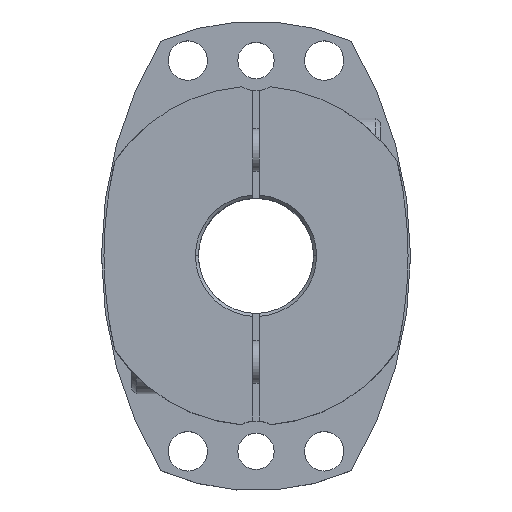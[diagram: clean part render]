
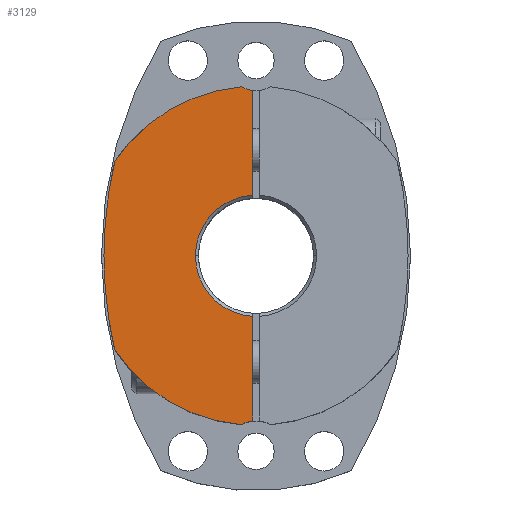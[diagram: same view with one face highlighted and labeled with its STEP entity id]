
A CAD part, top view. The second image highlights one B-rep face of the part: STEP entity #3129.
In plain terms, the highlighted planar face has unit normal (0, 0, 1).
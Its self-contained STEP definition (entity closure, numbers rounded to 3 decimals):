
#414=CARTESIAN_POINT('',(-20.,0.,42.5));
#415=VERTEX_POINT('',#414);
#422=CARTESIAN_POINT('',(-1.,-19.975,42.5));
#423=VERTEX_POINT('',#422);
#424=CARTESIAN_POINT('',(0.,0.,42.5));
#425=DIRECTION('',(0.0,0.0,1.0));
#426=DIRECTION('',(1.0,0.0,0.0));
#427=AXIS2_PLACEMENT_3D('',#424,#425,#426);
#428=CIRCLE('',#427,20.0);
#429=EDGE_CURVE('',#415,#423,#428,.T.);
#936=CARTESIAN_POINT('',(-50.2,0.,42.5));
#937=VERTEX_POINT('',#936);
#946=CARTESIAN_POINT('',(-46.66,30.965,42.5));
#947=VERTEX_POINT('',#946);
#948=CARTESIAN_POINT('',(87.,0.,42.5));
#949=DIRECTION('',(0.0,0.0,-1.0));
#950=DIRECTION('',(1.0,0.0,0.0));
#951=AXIS2_PLACEMENT_3D('',#948,#949,#950);
#952=CIRCLE('',#951,137.2);
#953=EDGE_CURVE('',#937,#947,#952,.T.);
#2266=CARTESIAN_POINT('',(-46.66,-30.965,42.5));
#2267=VERTEX_POINT('',#2266);
#2274=CARTESIAN_POINT('',(87.,0.,42.5));
#2275=DIRECTION('',(0.0,0.0,-1.0));
#2276=DIRECTION('',(1.0,0.0,0.0));
#2277=AXIS2_PLACEMENT_3D('',#2274,#2275,#2276);
#2278=CIRCLE('',#2277,137.2);
#2279=EDGE_CURVE('',#2267,#937,#2278,.T.);
#2595=CARTESIAN_POINT('',(-4.904,55.785,42.5));
#2596=VERTEX_POINT('',#2595);
#2597=CARTESIAN_POINT('',(0.,0.,42.5));
#2598=DIRECTION('',(0.0,0.0,-1.0));
#2599=DIRECTION('',(1.0,0.0,0.0));
#2600=AXIS2_PLACEMENT_3D('',#2597,#2598,#2599);
#2601=CIRCLE('',#2600,56.);
#2602=EDGE_CURVE('',#947,#2596,#2601,.T.);
#2761=CARTESIAN_POINT('',(-1.,54.55,42.5));
#2762=VERTEX_POINT('',#2761);
#2769=CARTESIAN_POINT('',(-1.,19.975,42.5));
#2770=VERTEX_POINT('',#2769);
#2771=CARTESIAN_POINT('',(-1.,19.975,42.5));
#2772=DIRECTION('',(0.0,1.0,0.0));
#2773=VECTOR('',#2772,34.575);
#2774=LINE('',#2771,#2773);
#2775=EDGE_CURVE('',#2770,#2762,#2774,.T.);
#2863=CARTESIAN_POINT('',(-1.,-54.55,42.5));
#2864=VERTEX_POINT('',#2863);
#2865=CARTESIAN_POINT('',(-1.,-54.55,42.5));
#2866=DIRECTION('',(0.0,1.0,0.0));
#2867=VECTOR('',#2866,34.575);
#2868=LINE('',#2865,#2867);
#2869=EDGE_CURVE('',#2864,#423,#2868,.T.);
#2950=CARTESIAN_POINT('',(-4.904,-55.785,42.5));
#2951=VERTEX_POINT('',#2950);
#2952=CARTESIAN_POINT('',(0.,-64.5,42.5));
#2953=DIRECTION('',(0.0,0.0,-1.0));
#2954=DIRECTION('',(1.0,0.0,0.0));
#2955=AXIS2_PLACEMENT_3D('',#2952,#2953,#2954);
#2956=CIRCLE('',#2955,10.0);
#2957=EDGE_CURVE('',#2951,#2864,#2956,.T.);
#3094=CARTESIAN_POINT('',(0.,0.,42.5));
#3095=DIRECTION('',(0.0,0.0,1.0));
#3096=DIRECTION('',(1.0,0.0,0.0));
#3097=AXIS2_PLACEMENT_3D('',#3094,#3095,#3096);
#3098=PLANE('',#3097);
#3099=ORIENTED_EDGE('',*,*,#2869,.T.);
#3100=ORIENTED_EDGE('',*,*,#429,.F.);
#3101=CARTESIAN_POINT('',(0.,0.,42.5));
#3102=DIRECTION('',(0.0,0.0,1.0));
#3103=DIRECTION('',(1.0,0.0,0.0));
#3104=AXIS2_PLACEMENT_3D('',#3101,#3102,#3103);
#3105=CIRCLE('',#3104,20.0);
#3106=EDGE_CURVE('',#2770,#415,#3105,.T.);
#3107=ORIENTED_EDGE('',*,*,#3106,.F.);
#3108=ORIENTED_EDGE('',*,*,#2775,.T.);
#3109=CARTESIAN_POINT('',(0.,64.5,42.5));
#3110=DIRECTION('',(0.0,0.0,-1.0));
#3111=DIRECTION('',(1.0,0.0,0.0));
#3112=AXIS2_PLACEMENT_3D('',#3109,#3110,#3111);
#3113=CIRCLE('',#3112,10.0);
#3114=EDGE_CURVE('',#2762,#2596,#3113,.T.);
#3115=ORIENTED_EDGE('',*,*,#3114,.T.);
#3116=ORIENTED_EDGE('',*,*,#2602,.F.);
#3117=ORIENTED_EDGE('',*,*,#953,.F.);
#3118=ORIENTED_EDGE('',*,*,#2279,.F.);
#3119=CARTESIAN_POINT('',(0.,0.0,42.5));
#3120=DIRECTION('',(0.0,0.0,-1.0));
#3121=DIRECTION('',(1.0,0.0,0.0));
#3122=AXIS2_PLACEMENT_3D('',#3119,#3120,#3121);
#3123=CIRCLE('',#3122,56.);
#3124=EDGE_CURVE('',#2951,#2267,#3123,.T.);
#3125=ORIENTED_EDGE('',*,*,#3124,.F.);
#3126=ORIENTED_EDGE('',*,*,#2957,.T.);
#3127=EDGE_LOOP('',(#3099,#3100,#3107,#3108,#3115,#3116,#3117,#3118,#3125,#3126));
#3128=FACE_OUTER_BOUND('',#3127,.T.);
#3129=ADVANCED_FACE('',(#3128),#3098,.T.);
